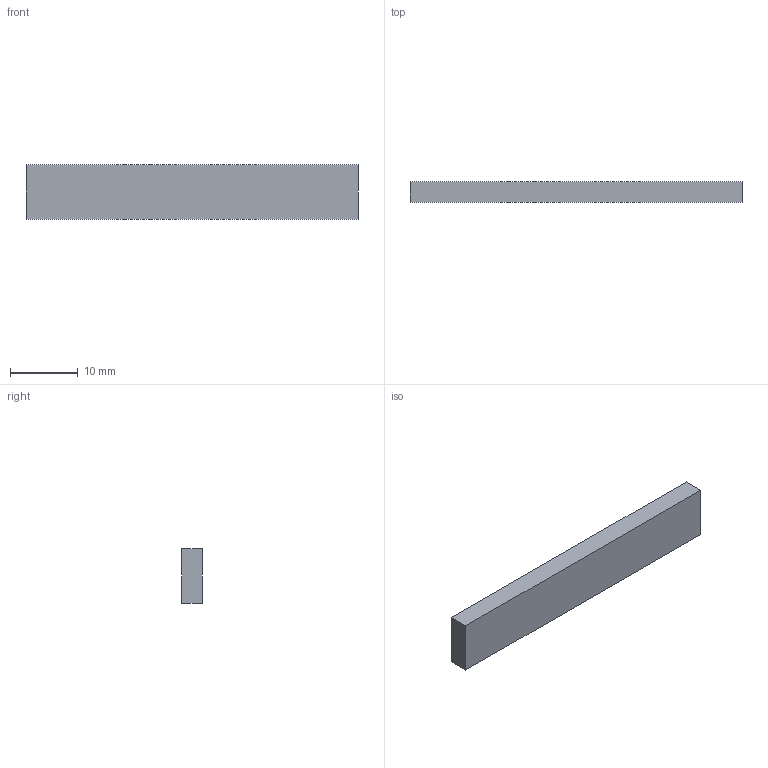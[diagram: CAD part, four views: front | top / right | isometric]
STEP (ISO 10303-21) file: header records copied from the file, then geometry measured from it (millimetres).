
FILE_DESCRIPTION(('Open CASCADE Model'),'2;1');
FILE_NAME('Open CASCADE Shape Model','2026-10-13T11:47:37',('Author'),( 'Open CASCADE'),'Open CASCADE STEP processor 7.8','Open CASCADE 7.8' ,'Unknown');
FILE_SCHEMA(('AUTOMOTIVE_DESIGN { 1 0 10303 214 1 1 1 1 }'));
Length unit declared in the file: millimetre
Products named in the file (1): Open CASCADE STEP translator 7.8 80
Bounding box: 49 x 3 x 8 mm (x, y, z)
Volume: 1176 mm3; surface area: 1126 mm2
Topology: 1 solids, 1 shells, 6 faces, 12 edges, 8 vertices
Faces by surface type: plane 6
Entity records: 322 total; most frequent: CARTESIAN_POINT 51, DIRECTION 50, LINE 36, VECTOR 36, ORIENTED_EDGE 24, PCURVE 24, DEFINITIONAL_REPRESENTATION 24, EDGE_CURVE 12
